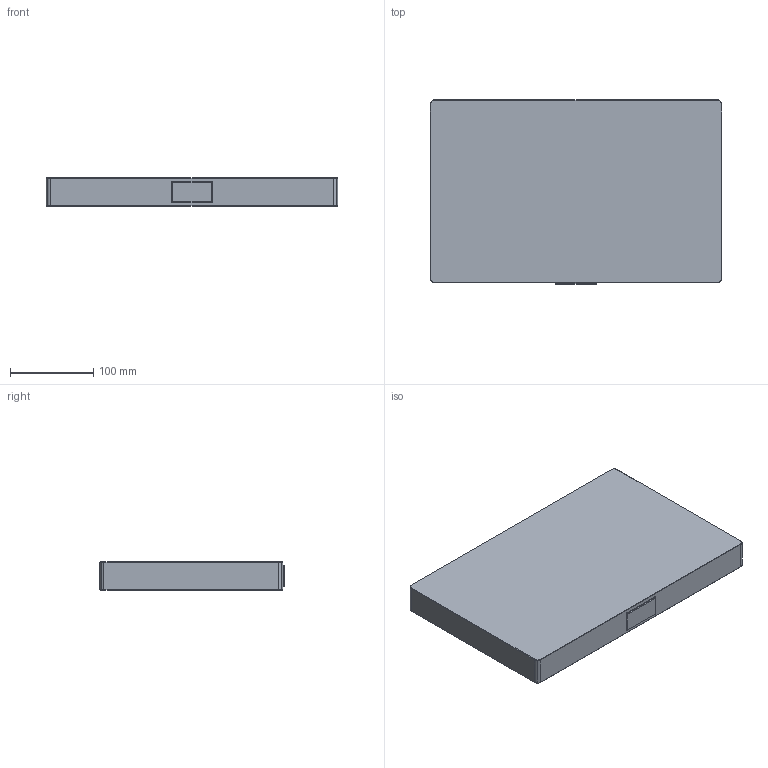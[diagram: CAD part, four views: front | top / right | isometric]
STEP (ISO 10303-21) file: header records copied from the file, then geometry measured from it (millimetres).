
FILE_DESCRIPTION (( 'STEP AP214' ), '1' );
FILE_NAME ('Pallet - QPS - 100 - 220 x 350 x 34.step', '2025-05-03T15:55:57', ( 'tinckavdane@live.com' ), ( '' ), 'SwSTEP 2.0', 'SolidWorks 2025', '' );
FILE_SCHEMA (( 'AUTOMOTIVE_DESIGN' ));
Length unit declared in the file: millimetre
Products named in the file (7): Pallet - QPS - 100 - 220 x 350 x 34.step; eBom-FreeParts_1.step_1.step.step; D-RAZTEH Logo.step_1.step.step; Pallet - QPS - 100 - 220 x 350 x 34; Pallet - QPS - 100 - 220 x 350 x 34.step.step; Pallet - QPS - 100 - 220 x 350 x 34.step_1.step.step; Pallet - QPS - 100 - 220 x 350 x 34_1.step_1.step.step
Assembly tree (6 placements, depth 6):
  Pallet - QPS - 100 - 220 x 350 x 34
    Pallet - QPS - 100 - 220 x 350 x 34.step
      Pallet - QPS - 100 - 220 x 350 x 34.step.step
        Pallet - QPS - 100 - 220 x 350 x 34.step_1.step.step
          Pallet - QPS - 100 - 220 x 350 x 34_1.step_1.step.step
            D-RAZTEH Logo.step_1.step.step
          eBom-FreeParts_1.step_1.step.step
Bounding box: 350 x 221.5 x 34 mm (x, y, z)
Volume: 2572727.6 mm3; surface area: 198961.1 mm2
Topology: 2 solids, 2 shells, 101 faces, 226 edges, 136 vertices
Faces by surface type: cylinder 38, plane 35, cone 24, bspline 4
Entity records: 3000 total; most frequent: DIRECTION 550, CARTESIAN_POINT 508, ORIENTED_EDGE 452, EDGE_CURVE 226, AXIS2_PLACEMENT_3D 214, VERTEX_POINT 136, VECTOR 122, LINE 122
